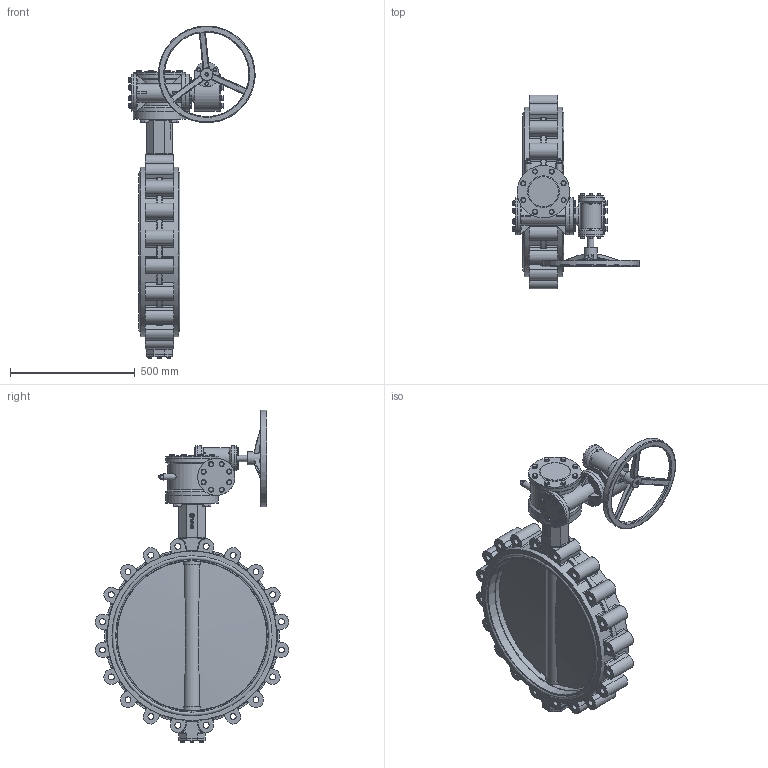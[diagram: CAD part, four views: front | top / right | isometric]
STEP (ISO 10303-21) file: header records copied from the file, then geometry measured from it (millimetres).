
FILE_DESCRIPTION(('STEP AP242'), '1');
FILE_NAME('Ïîâîðîòíûé çàòâîð ïîä ýëåêòðîïðèâîä', '', ('UNSPECIFIED'), ('UNSPECIFIED'), 'C3D Converter', 'C3D Toolkit', '');
FILE_SCHEMA(('AP242_MANAGED_MODEL_BASED_3D_ENGINEERING_MIM_LF { 1 0 10303 442 1 1 4 }'));
Length unit declared in the file: millimetre
Products named in the file (29): П; ШМ.М12.40
Assembly tree (130 placements, depth 3):
  (unnamed)
    (unnamed)
    П  x2
    (unnamed)
    (unnamed)
    (unnamed)
    (unnamed)
    (unnamed)  x4
    (unnamed)
      (unnamed)
      (unnamed)
      (unnamed)  x2
      (unnamed)
      (unnamed)
      (unnamed)
      (unnamed)
      (unnamed)
      (unnamed)  x2
      (unnamed)  x2
      (unnamed)  x32
      (unnamed)  x16
      (unnamed)  x8
      (unnamed)  x8
      ШМ.М12.40  x8
      (unnamed)  x12
      (unnamed)  x12
      (unnamed)
    (unnamed)  x4
    (unnamed)  x4
Bounding box: 505.04 x 776.06 x 1329.04 mm (x, y, z)
Volume: 42336733.1 mm3; surface area: 4162567.9 mm2
Topology: 129 solids, 129 shells, 2192 faces, 4967 edges, 3148 vertices
Faces by surface type: plane 1036, cylinder 583, torus 186, cone 171, extrusion 159, bspline 53, sphere 4
Full cylindrical faces by diameter (mm): 6 x2, 8 x40, 8.4 x12, 10 x12, 10.647 x10, 12 x100, 13 x32, 15 x12, 16 x8, 18.845 x1, 20 x36, 21 x4, 22 x8, 23.752 x20, 24 x2, 26 x4, 34 x4, 46 x5, 50.6 x1, 51 x1, 65.054 x5, 73.15 x4, 73.5 x2, 99 x4, 121 x1, 148.5 x6, 195 x1, 210 x4, 338 x1, 348 x1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
Entity records: 60768 total; most frequent: CARTESIAN_POINT 24743, DIRECTION 6041, ORIENTED_EDGE 5972, EDGE_CURVE 2986, AXIS2_PLACEMENT_3D 2352, VERTEX_POINT 2063, EDGE_LOOP 1849, FACE_BOUND 1392
